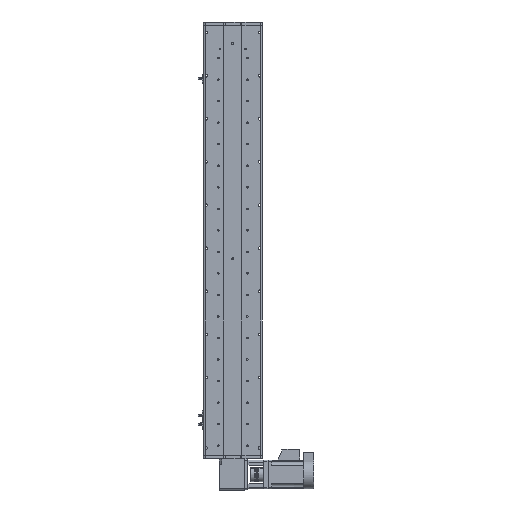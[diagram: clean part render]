
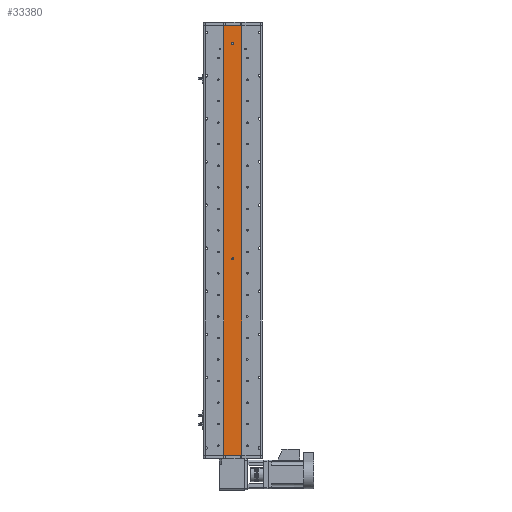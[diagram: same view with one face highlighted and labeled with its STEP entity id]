
A CAD part, front view. The second image highlights one B-rep face of the part: STEP entity #33380.
In plain terms, the highlighted planar face has unit normal (0, -1, 0).
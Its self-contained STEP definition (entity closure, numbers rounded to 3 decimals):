
#471 = CARTESIAN_POINT ( 'NONE',  ( 0., 1., -51.5 ) ) ;
#1257 = CARTESIAN_POINT ( 'NONE',  ( -25., 1., 598.5 ) ) ;
#1900 = VERTEX_POINT ( 'NONE', #15288 ) ;
#2067 = DIRECTION ( 'NONE',  ( 0., 0., -1. ) ) ;
#3112 = ORIENTED_EDGE ( 'NONE', *, *, #17211, .F. ) ;
#3597 = CARTESIAN_POINT ( 'NONE',  ( 25., 1., 598.5 ) ) ;
#4226 = DIRECTION ( 'NONE',  ( 0., 0., -1. ) ) ;
#4504 = PLANE ( 'NONE',  #28266 ) ;
#4792 = DIRECTION ( 'NONE',  ( 0., -1., 0. ) ) ;
#5164 = LINE ( 'NONE', #20729, #14053 ) ;
#6185 = LINE ( 'NONE', #1257, #45401 ) ;
#6680 = FACE_OUTER_BOUND ( 'NONE', #39430, .T. ) ;
#7357 = DIRECTION ( 'NONE',  ( 0., 0., -1. ) ) ;
#8244 = DIRECTION ( 'NONE',  ( 0., 1., 0. ) ) ;
#8623 = CARTESIAN_POINT ( 'NONE',  ( 0., 1., -54.5 ) ) ;
#9617 = VECTOR ( 'NONE', #7357, 1000. ) ;
#10302 = CARTESIAN_POINT ( 'NONE',  ( 25., 1., -598.5 ) ) ;
#10788 = LINE ( 'NONE', #3597, #9617 ) ;
#11565 = EDGE_CURVE ( 'NONE', #30601, #44655, #24947, .T. ) ;
#11667 = CARTESIAN_POINT ( 'NONE',  ( -25., 1., 598.5 ) ) ;
#12427 = LINE ( 'NONE', #10302, #48053 ) ;
#12651 = CARTESIAN_POINT ( 'NONE',  ( 25., 1., 598.5 ) ) ;
#12833 = DIRECTION ( 'NONE',  ( 0., -1., 0. ) ) ;
#13403 = VERTEX_POINT ( 'NONE', #12651 ) ;
#14053 = VECTOR ( 'NONE', #43469, 1000. ) ;
#14315 = ORIENTED_EDGE ( 'NONE', *, *, #11565, .F. ) ;
#15288 = CARTESIAN_POINT ( 'NONE',  ( 0., 1., 551.5 ) ) ;
#16451 = DIRECTION ( 'NONE',  ( 0., 0., -1. ) ) ;
#17071 = CIRCLE ( 'NONE', #48137, 3. ) ;
#17211 = EDGE_CURVE ( 'NONE', #1900, #20044, #17071, .T. ) ;
#20044 = VERTEX_POINT ( 'NONE', #44779 ) ;
#20613 = EDGE_CURVE ( 'NONE', #13403, #38384, #10788, .T. ) ;
#20729 = CARTESIAN_POINT ( 'NONE',  ( 25., 1., 598.5 ) ) ;
#22072 = CIRCLE ( 'NONE', #31198, 3. ) ;
#22884 = ORIENTED_EDGE ( 'NONE', *, *, #41651, .F. ) ;
#23790 = CIRCLE ( 'NONE', #36927, 3. ) ;
#24725 = DIRECTION ( 'NONE',  ( 0., -1., 0. ) ) ;
#24877 = CARTESIAN_POINT ( 'NONE',  ( 25., 1., -598.5 ) ) ;
#24889 = EDGE_CURVE ( 'NONE', #28346, #38384, #12427, .T. ) ;
#24947 = CIRCLE ( 'NONE', #26064, 3. ) ;
#25602 = ORIENTED_EDGE ( 'NONE', *, *, #28274, .F. ) ;
#26064 = AXIS2_PLACEMENT_3D ( 'NONE', #35598, #12833, #39359 ) ;
#26650 = EDGE_LOOP ( 'NONE', ( #14315, #25602 ) ) ;
#26899 = DIRECTION ( 'NONE',  ( 0., -1., 0. ) ) ;
#27459 = CARTESIAN_POINT ( 'NONE',  ( 0., 1., 548.5 ) ) ;
#27693 = EDGE_CURVE ( 'NONE', #20044, #1900, #22072, .T. ) ;
#28266 = AXIS2_PLACEMENT_3D ( 'NONE', #42285, #8244, #34875 ) ;
#28274 = EDGE_CURVE ( 'NONE', #44655, #30601, #23790, .T. ) ;
#28346 = VERTEX_POINT ( 'NONE', #38846 ) ;
#29246 = DIRECTION ( 'NONE',  ( 1., 0., 0. ) ) ;
#30601 = VERTEX_POINT ( 'NONE', #8623 ) ;
#31198 = AXIS2_PLACEMENT_3D ( 'NONE', #27459, #4792, #31313 ) ;
#31313 = DIRECTION ( 'NONE',  ( 0., 0., -1. ) ) ;
#32814 = VERTEX_POINT ( 'NONE', #11667 ) ;
#32956 = EDGE_CURVE ( 'NONE', #32814, #28346, #6185, .T. ) ;
#33380 = ADVANCED_FACE ( 'NONE', ( #35827, #36979, #6680 ), #4504, .F. ) ;
#34875 = DIRECTION ( 'NONE',  ( 0., 0., 1. ) ) ;
#35598 = CARTESIAN_POINT ( 'NONE',  ( 0., 1., -51.5 ) ) ;
#35827 = FACE_BOUND ( 'NONE', #36748, .T. ) ;
#36748 = EDGE_LOOP ( 'NONE', ( #38763, #3112 ) ) ;
#36927 = AXIS2_PLACEMENT_3D ( 'NONE', #471, #26899, #4226 ) ;
#36979 = FACE_BOUND ( 'NONE', #26650, .T. ) ;
#38384 = VERTEX_POINT ( 'NONE', #24877 ) ;
#38763 = ORIENTED_EDGE ( 'NONE', *, *, #27693, .F. ) ;
#38846 = CARTESIAN_POINT ( 'NONE',  ( -25., 1., -598.5 ) ) ;
#39359 = DIRECTION ( 'NONE',  ( 0., 0., -1. ) ) ;
#39430 = EDGE_LOOP ( 'NONE', ( #43563, #45913, #22884, #47084 ) ) ;
#41651 = EDGE_CURVE ( 'NONE', #32814, #13403, #5164, .T. ) ;
#42285 = CARTESIAN_POINT ( 'NONE',  ( 25., 1., 598.5 ) ) ;
#43469 = DIRECTION ( 'NONE',  ( 1., 0., 0. ) ) ;
#43563 = ORIENTED_EDGE ( 'NONE', *, *, #24889, .T. ) ;
#44655 = VERTEX_POINT ( 'NONE', #47719 ) ;
#44779 = CARTESIAN_POINT ( 'NONE',  ( 0., 1., 545.5 ) ) ;
#45401 = VECTOR ( 'NONE', #16451, 1000. ) ;
#45913 = ORIENTED_EDGE ( 'NONE', *, *, #20613, .F. ) ;
#47084 = ORIENTED_EDGE ( 'NONE', *, *, #32956, .T. ) ;
#47469 = CARTESIAN_POINT ( 'NONE',  ( 0., 1., 548.5 ) ) ;
#47719 = CARTESIAN_POINT ( 'NONE',  ( 0., 1., -48.5 ) ) ;
#48053 = VECTOR ( 'NONE', #29246, 1000. ) ;
#48137 = AXIS2_PLACEMENT_3D ( 'NONE', #47469, #24725, #2067 ) ;
